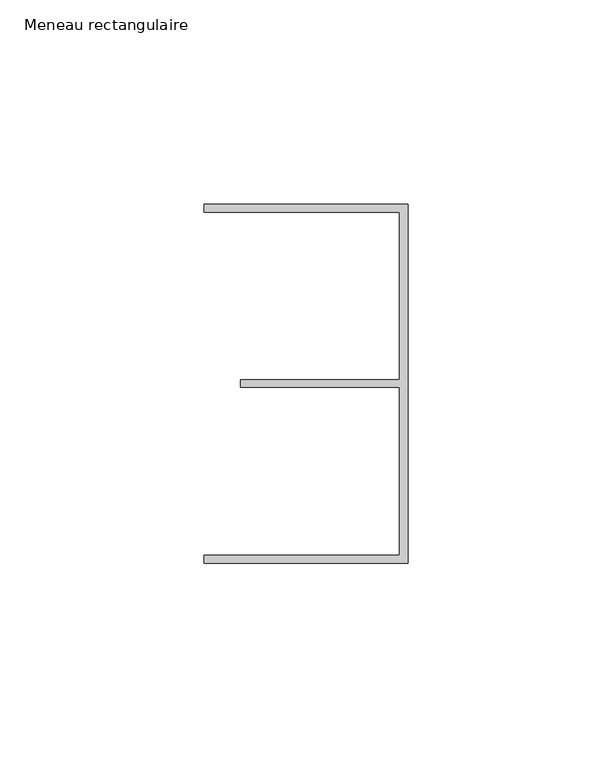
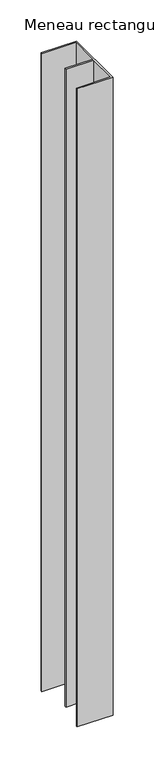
"""IFC4 building model written with IfcOpenShell, lengths in millimetres: member geometry, Meneau rectangulaire : LISSERIE_SOL_COIFFANTE 94-KLS00-P80-SD41ALU."""

from ifc_helpers import new_model, si_unit, frame, origin, place, context, project, spatial, polyline, outline, extrude, source, transform, mapped, element, save


def meneau_rectangulaire_9d9a7ddc(model_context):
    return source(origin(), model_context, "Body", "SweptSolid", [
        extrude(outline(polyline([(0.0, -44.0), (-50.0, -44.0), (-50.0, -42.0), (-2.0, -42.0), (-2.0, -0.9316478), (-41.0, -0.9316478), (-41.0, 0.9316478), (-2.0, 0.9316478), (-2.0, 42.0), (-50.0, 42.0), (-50.0, 44.0), (0.0, 44.0), (0.0, -44.0)])), frame((0.0, 0.0, -945.8), z_axis=(0.0, 0.0, 1.0), x_axis=(1.0, 0.0, 0.0)), (0.0, 0.0, 1.0), 945.8),
    ])


if __name__ == "__main__":
    model = new_model("IFC4")
    model_context = context("Model", 3, world=origin())
    ifc_project = project(units=[si_unit("LENGTHUNIT", "METRE", prefix="MILLI")], contexts=[model_context])
    site = spatial("IfcSite", under=ifc_project)
    building = spatial("IfcBuilding", under=site)
    placement = place(None, origin())
    meneau_rectangulaire_shape = meneau_rectangulaire_9d9a7ddc(model_context)
    element("IfcMember", 1, ObjectType="Meneau rectangulaire : LISSERIE_SOL_COIFFANTE 94-KLS00-P80-SD41ALU", at=placement, inside=building, context=model_context, shape_type="MappedRepresentation", body=[
        mapped(meneau_rectangulaire_shape, transform((0.0, 0.0, 0.0), x_axis=(1.0, 0.0, 0.0), y_axis=(0.0, 1.0, 0.0), z_axis=(0.0, 0.0, 1.0))),
    ])
    save(model, "model.ifc")
